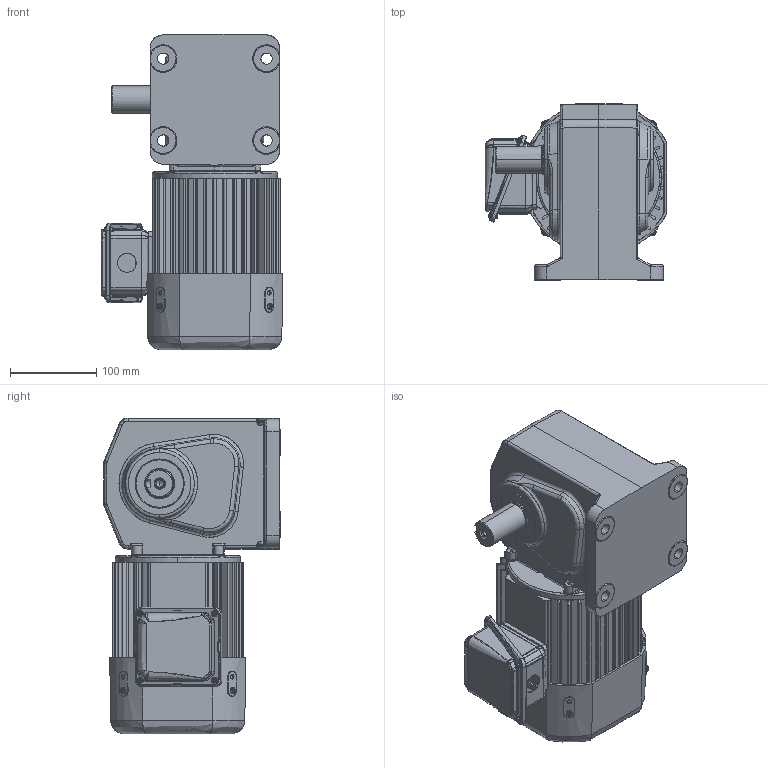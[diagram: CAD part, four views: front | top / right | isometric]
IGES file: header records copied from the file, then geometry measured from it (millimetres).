
Start section: SolidWorks IGES file using analytic representation for surfaces
Global section: file name: \\100.100.100.8\1_共有作業フォルダ\1-5_３Ｄデータ\solidworks\personal-folder\H.Nagayama\HL外形\HL(3D)\igs\TMHL-07-(5~60)A.IGS; native system: SolidWorks 2018; preprocessor: SolidWorks 2018; author: sigma-giken; date: 200326.161534; units: millimetre
Bounding box: 211 x 205 x 366.5 mm (x, y, z)
Surface area: 596770.9 mm2 (no closed solid volume)
Topology: 0 solids, 0 shells, 1810 faces, 21330 edges, 21235 vertices
Faces by surface type: revolution 912, bspline 898
